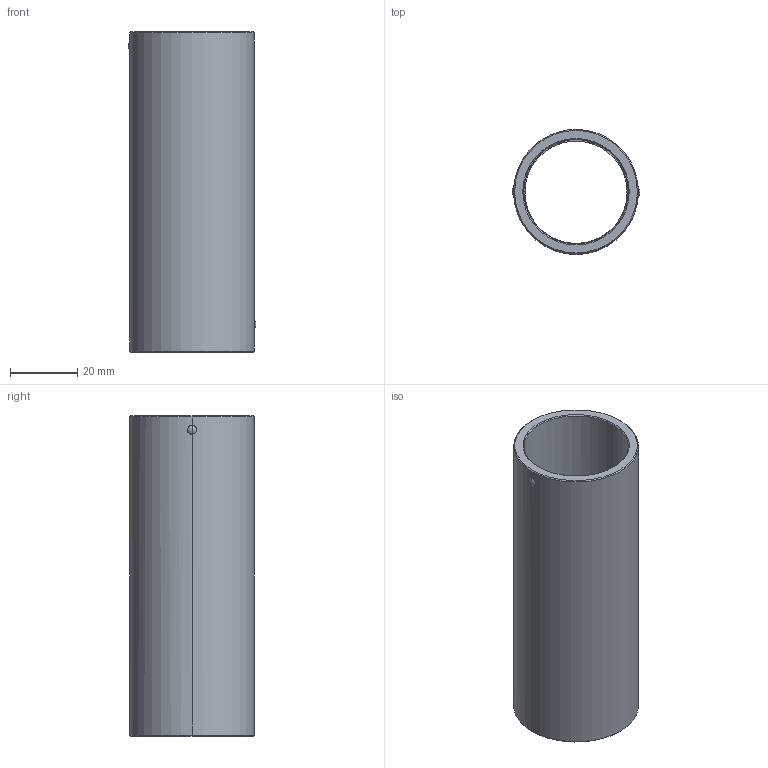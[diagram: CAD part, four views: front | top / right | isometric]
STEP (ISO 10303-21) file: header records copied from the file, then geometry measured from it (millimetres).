
FILE_DESCRIPTION(('CATIA V5 STEP Exchange'),'2;1');
FILE_NAME('C:\Users\Utente\Desktop\IO LAVORO\3D X SITO CF\X SITO\730\730-30x95.stp','2021-01-07T16:12:15+00:00',('none'),('none'),'CATIA Version 5 Release 20 GA (IN-10)','CATIA V5 STEP AP203','none');
FILE_SCHEMA(('CONFIG_CONTROL_DESIGN'));
Length unit declared in the file: millimetre
Products named in the file (1): 730-30x95
Bounding box: 37.99 x 37 x 95 mm (x, y, z)
Volume: 29498.5 mm3; surface area: 21283.1 mm2
Topology: 1 solids, 1 shells, 44 faces, 120 edges, 76 vertices
Faces by surface type: cylinder 18, cone 10, plane 8, sphere 8
Entity records: 1722 total; most frequent: CARTESIAN_POINT 655, ORIENTED_EDGE 240, DIRECTION 161, EDGE_CURVE 120, AXIS2_PLACEMENT_3D 80, VERTEX_POINT 76, EDGE_LOOP 48, B_SPLINE_CURVE_WITH_KNOTS 47
